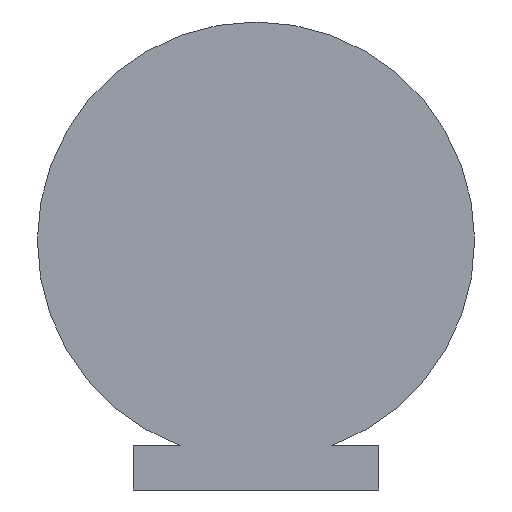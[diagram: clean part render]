
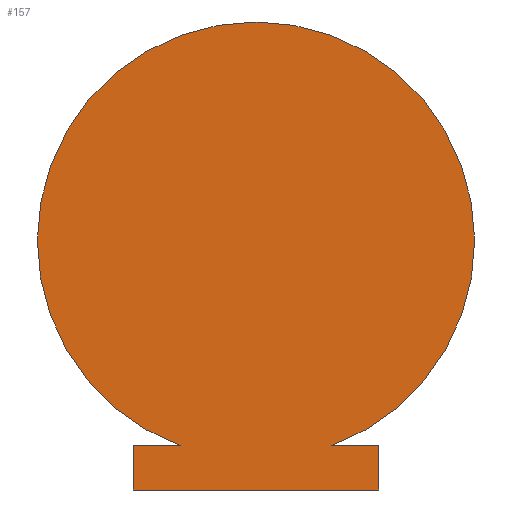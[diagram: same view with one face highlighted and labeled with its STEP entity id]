
A CAD part, front view. The second image highlights one B-rep face of the part: STEP entity #157.
In plain terms, the highlighted planar face has unit normal (0, -1, 0).
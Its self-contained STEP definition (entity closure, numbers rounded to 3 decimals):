
#39 = EDGE_CURVE('',#40,#42,#44,.T.);
#40 = VERTEX_POINT('',#41);
#41 = CARTESIAN_POINT('',(-6.16,-35.5,29.8));
#42 = VERTEX_POINT('',#43);
#43 = CARTESIAN_POINT('',(6.16,-35.5,29.8));
#44 = SURFACE_CURVE('',#45,(#50,#62),.PCURVE_S1.);
#45 = CIRCLE('',#46,17.8);
#46 = AXIS2_PLACEMENT_3D('',#47,#48,#49);
#47 = CARTESIAN_POINT('',(0.,-35.5,46.5));
#48 = DIRECTION('',(0.,1.,0.));
#49 = DIRECTION('',(-0.346,0.,-0.938));
#50 = PCURVE('',#51,#56);
#51 = CYLINDRICAL_SURFACE('',#52,17.8);
#52 = AXIS2_PLACEMENT_3D('',#53,#54,#55);
#53 = CARTESIAN_POINT('',(0.,-35.5,46.5));
#54 = DIRECTION('',(0.,1.,0.));
#55 = DIRECTION('',(0.,-0.,1.));
#56 = DEFINITIONAL_REPRESENTATION('',(#57),#61);
#57 = LINE('',#58,#59);
#58 = CARTESIAN_POINT('',(3.495,0.));
#59 = VECTOR('',#60,1.);
#60 = DIRECTION('',(1.,0.));
#61 = ( GEOMETRIC_REPRESENTATION_CONTEXT(2) 
PARAMETRIC_REPRESENTATION_CONTEXT() REPRESENTATION_CONTEXT('2D SPACE',''
  ) );
#62 = PCURVE('',#63,#68);
#63 = PLANE('',#64);
#64 = AXIS2_PLACEMENT_3D('',#65,#66,#67);
#65 = CARTESIAN_POINT('',(0.,-35.5,46.5));
#66 = DIRECTION('',(0.,1.,0.));
#67 = DIRECTION('',(0.,-0.,1.));
#68 = DEFINITIONAL_REPRESENTATION('',(#69),#73);
#69 = CIRCLE('',#70,17.8);
#70 = AXIS2_PLACEMENT_2D('',#71,#72);
#71 = CARTESIAN_POINT('',(0.,0.));
#72 = DIRECTION('',(-0.938,-0.346));
#73 = ( GEOMETRIC_REPRESENTATION_CONTEXT(2) 
PARAMETRIC_REPRESENTATION_CONTEXT() REPRESENTATION_CONTEXT('2D SPACE',''
  ) );
#90 = PLANE('',#91);
#91 = AXIS2_PLACEMENT_3D('',#92,#93,#94);
#92 = CARTESIAN_POINT('',(-10.,-35.5,29.8));
#93 = DIRECTION('',(0.,0.,1.));
#94 = DIRECTION('',(1.,0.,0.));
#147 = PLANE('',#148);
#148 = AXIS2_PLACEMENT_3D('',#149,#150,#151);
#149 = CARTESIAN_POINT('',(-10.,-35.5,29.8));
#150 = DIRECTION('',(0.,0.,1.));
#151 = DIRECTION('',(1.,0.,0.));
#157 = ADVANCED_FACE('',(#158),#63,.F.);
#158 = FACE_BOUND('',#159,.F.);
#159 = EDGE_LOOP('',(#160,#161,#184,#212,#240,#268));
#160 = ORIENTED_EDGE('',*,*,#39,.T.);
#161 = ORIENTED_EDGE('',*,*,#162,.T.);
#162 = EDGE_CURVE('',#42,#163,#165,.T.);
#163 = VERTEX_POINT('',#164);
#164 = CARTESIAN_POINT('',(10.,-35.5,29.8));
#165 = SURFACE_CURVE('',#166,(#170,#177),.PCURVE_S1.);
#166 = LINE('',#167,#168);
#167 = CARTESIAN_POINT('',(-10.,-35.5,29.8));
#168 = VECTOR('',#169,1.);
#169 = DIRECTION('',(1.,0.,0.));
#170 = PCURVE('',#63,#171);
#171 = DEFINITIONAL_REPRESENTATION('',(#172),#176);
#172 = LINE('',#173,#174);
#173 = CARTESIAN_POINT('',(-16.7,-10.));
#174 = VECTOR('',#175,1.);
#175 = DIRECTION('',(0.,1.));
#176 = ( GEOMETRIC_REPRESENTATION_CONTEXT(2) 
PARAMETRIC_REPRESENTATION_CONTEXT() REPRESENTATION_CONTEXT('2D SPACE',''
  ) );
#177 = PCURVE('',#90,#178);
#178 = DEFINITIONAL_REPRESENTATION('',(#179),#183);
#179 = LINE('',#180,#181);
#180 = CARTESIAN_POINT('',(0.,0.));
#181 = VECTOR('',#182,1.);
#182 = DIRECTION('',(1.,0.));
#183 = ( GEOMETRIC_REPRESENTATION_CONTEXT(2) 
PARAMETRIC_REPRESENTATION_CONTEXT() REPRESENTATION_CONTEXT('2D SPACE',''
  ) );
#184 = ORIENTED_EDGE('',*,*,#185,.F.);
#185 = EDGE_CURVE('',#186,#163,#188,.T.);
#186 = VERTEX_POINT('',#187);
#187 = CARTESIAN_POINT('',(10.,-35.5,26.2));
#188 = SURFACE_CURVE('',#189,(#193,#200),.PCURVE_S1.);
#189 = LINE('',#190,#191);
#190 = CARTESIAN_POINT('',(10.,-35.5,26.2));
#191 = VECTOR('',#192,1.);
#192 = DIRECTION('',(0.,0.,1.));
#193 = PCURVE('',#63,#194);
#194 = DEFINITIONAL_REPRESENTATION('',(#195),#199);
#195 = LINE('',#196,#197);
#196 = CARTESIAN_POINT('',(-20.3,10.));
#197 = VECTOR('',#198,1.);
#198 = DIRECTION('',(1.,0.));
#199 = ( GEOMETRIC_REPRESENTATION_CONTEXT(2) 
PARAMETRIC_REPRESENTATION_CONTEXT() REPRESENTATION_CONTEXT('2D SPACE',''
  ) );
#200 = PCURVE('',#201,#206);
#201 = PLANE('',#202);
#202 = AXIS2_PLACEMENT_3D('',#203,#204,#205);
#203 = CARTESIAN_POINT('',(10.,-35.5,26.2));
#204 = DIRECTION('',(1.,0.,0.));
#205 = DIRECTION('',(0.,0.,1.));
#206 = DEFINITIONAL_REPRESENTATION('',(#207),#211);
#207 = LINE('',#208,#209);
#208 = CARTESIAN_POINT('',(0.,0.));
#209 = VECTOR('',#210,1.);
#210 = DIRECTION('',(1.,0.));
#211 = ( GEOMETRIC_REPRESENTATION_CONTEXT(2) 
PARAMETRIC_REPRESENTATION_CONTEXT() REPRESENTATION_CONTEXT('2D SPACE',''
  ) );
#212 = ORIENTED_EDGE('',*,*,#213,.F.);
#213 = EDGE_CURVE('',#214,#186,#216,.T.);
#214 = VERTEX_POINT('',#215);
#215 = CARTESIAN_POINT('',(-10.,-35.5,26.2));
#216 = SURFACE_CURVE('',#217,(#221,#228),.PCURVE_S1.);
#217 = LINE('',#218,#219);
#218 = CARTESIAN_POINT('',(-10.,-35.5,26.2));
#219 = VECTOR('',#220,1.);
#220 = DIRECTION('',(1.,0.,0.));
#221 = PCURVE('',#63,#222);
#222 = DEFINITIONAL_REPRESENTATION('',(#223),#227);
#223 = LINE('',#224,#225);
#224 = CARTESIAN_POINT('',(-20.3,-10.));
#225 = VECTOR('',#226,1.);
#226 = DIRECTION('',(0.,1.));
#227 = ( GEOMETRIC_REPRESENTATION_CONTEXT(2) 
PARAMETRIC_REPRESENTATION_CONTEXT() REPRESENTATION_CONTEXT('2D SPACE',''
  ) );
#228 = PCURVE('',#229,#234);
#229 = PLANE('',#230);
#230 = AXIS2_PLACEMENT_3D('',#231,#232,#233);
#231 = CARTESIAN_POINT('',(-10.,-35.5,26.2));
#232 = DIRECTION('',(0.,0.,1.));
#233 = DIRECTION('',(1.,0.,0.));
#234 = DEFINITIONAL_REPRESENTATION('',(#235),#239);
#235 = LINE('',#236,#237);
#236 = CARTESIAN_POINT('',(0.,0.));
#237 = VECTOR('',#238,1.);
#238 = DIRECTION('',(1.,0.));
#239 = ( GEOMETRIC_REPRESENTATION_CONTEXT(2) 
PARAMETRIC_REPRESENTATION_CONTEXT() REPRESENTATION_CONTEXT('2D SPACE',''
  ) );
#240 = ORIENTED_EDGE('',*,*,#241,.T.);
#241 = EDGE_CURVE('',#214,#242,#244,.T.);
#242 = VERTEX_POINT('',#243);
#243 = CARTESIAN_POINT('',(-10.,-35.5,29.8));
#244 = SURFACE_CURVE('',#245,(#249,#256),.PCURVE_S1.);
#245 = LINE('',#246,#247);
#246 = CARTESIAN_POINT('',(-10.,-35.5,26.2));
#247 = VECTOR('',#248,1.);
#248 = DIRECTION('',(0.,0.,1.));
#249 = PCURVE('',#63,#250);
#250 = DEFINITIONAL_REPRESENTATION('',(#251),#255);
#251 = LINE('',#252,#253);
#252 = CARTESIAN_POINT('',(-20.3,-10.));
#253 = VECTOR('',#254,1.);
#254 = DIRECTION('',(1.,0.));
#255 = ( GEOMETRIC_REPRESENTATION_CONTEXT(2) 
PARAMETRIC_REPRESENTATION_CONTEXT() REPRESENTATION_CONTEXT('2D SPACE',''
  ) );
#256 = PCURVE('',#257,#262);
#257 = PLANE('',#258);
#258 = AXIS2_PLACEMENT_3D('',#259,#260,#261);
#259 = CARTESIAN_POINT('',(-10.,-35.5,26.2));
#260 = DIRECTION('',(1.,0.,0.));
#261 = DIRECTION('',(0.,0.,1.));
#262 = DEFINITIONAL_REPRESENTATION('',(#263),#267);
#263 = LINE('',#264,#265);
#264 = CARTESIAN_POINT('',(0.,0.));
#265 = VECTOR('',#266,1.);
#266 = DIRECTION('',(1.,0.));
#267 = ( GEOMETRIC_REPRESENTATION_CONTEXT(2) 
PARAMETRIC_REPRESENTATION_CONTEXT() REPRESENTATION_CONTEXT('2D SPACE',''
  ) );
#268 = ORIENTED_EDGE('',*,*,#269,.T.);
#269 = EDGE_CURVE('',#242,#40,#270,.T.);
#270 = SURFACE_CURVE('',#271,(#275,#282),.PCURVE_S1.);
#271 = LINE('',#272,#273);
#272 = CARTESIAN_POINT('',(-10.,-35.5,29.8));
#273 = VECTOR('',#274,1.);
#274 = DIRECTION('',(1.,0.,0.));
#275 = PCURVE('',#63,#276);
#276 = DEFINITIONAL_REPRESENTATION('',(#277),#281);
#277 = LINE('',#278,#279);
#278 = CARTESIAN_POINT('',(-16.7,-10.));
#279 = VECTOR('',#280,1.);
#280 = DIRECTION('',(0.,1.));
#281 = ( GEOMETRIC_REPRESENTATION_CONTEXT(2) 
PARAMETRIC_REPRESENTATION_CONTEXT() REPRESENTATION_CONTEXT('2D SPACE',''
  ) );
#282 = PCURVE('',#147,#283);
#283 = DEFINITIONAL_REPRESENTATION('',(#284),#288);
#284 = LINE('',#285,#286);
#285 = CARTESIAN_POINT('',(0.,0.));
#286 = VECTOR('',#287,1.);
#287 = DIRECTION('',(1.,0.));
#288 = ( GEOMETRIC_REPRESENTATION_CONTEXT(2) 
PARAMETRIC_REPRESENTATION_CONTEXT() REPRESENTATION_CONTEXT('2D SPACE',''
  ) );
